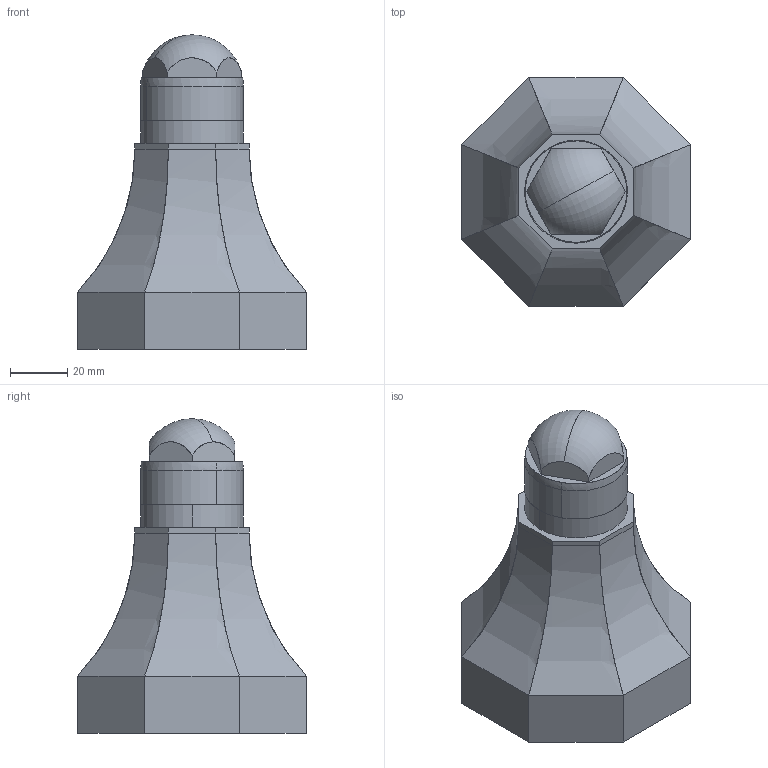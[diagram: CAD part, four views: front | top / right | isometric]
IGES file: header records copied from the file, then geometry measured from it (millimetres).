
Start section: START RECORD GO HERE.
Global section: file name: xueshengzu.igs; native system: DASSAULT SYSTEMES CATIA V5 R19 - www.3ds.com; preprocessor: CATIA Version 5 Release 19 SP 9 ; author: lenovo; organization: LAPTOP-9JRVD73E; date: 20210425.200721; units: millimetre
Bounding box: 80 x 80 x 110 mm (x, y, z)
Surface area: 37125 mm2 (no closed solid volume)
Topology: 0 solids, 0 shells, 60 faces, 264 edges, 260 vertices
Faces by surface type: plane 30, revolution 30
